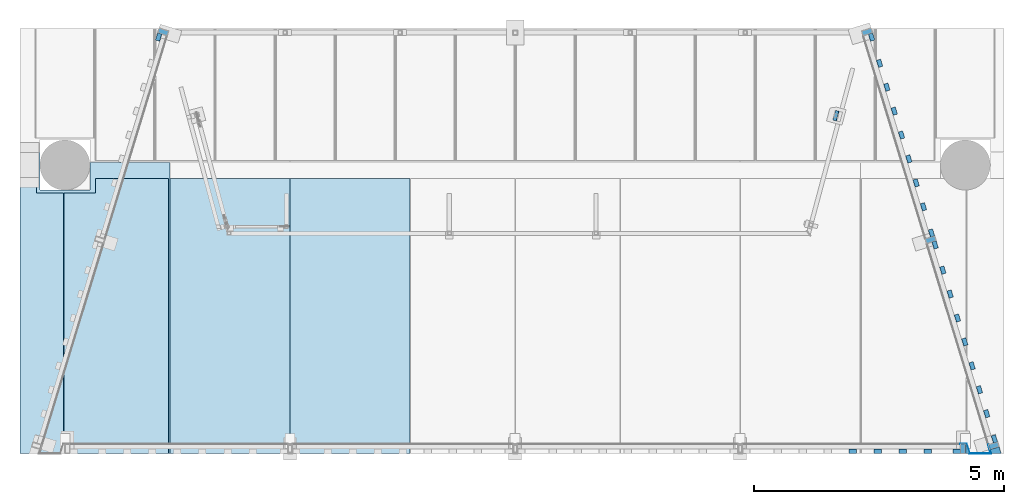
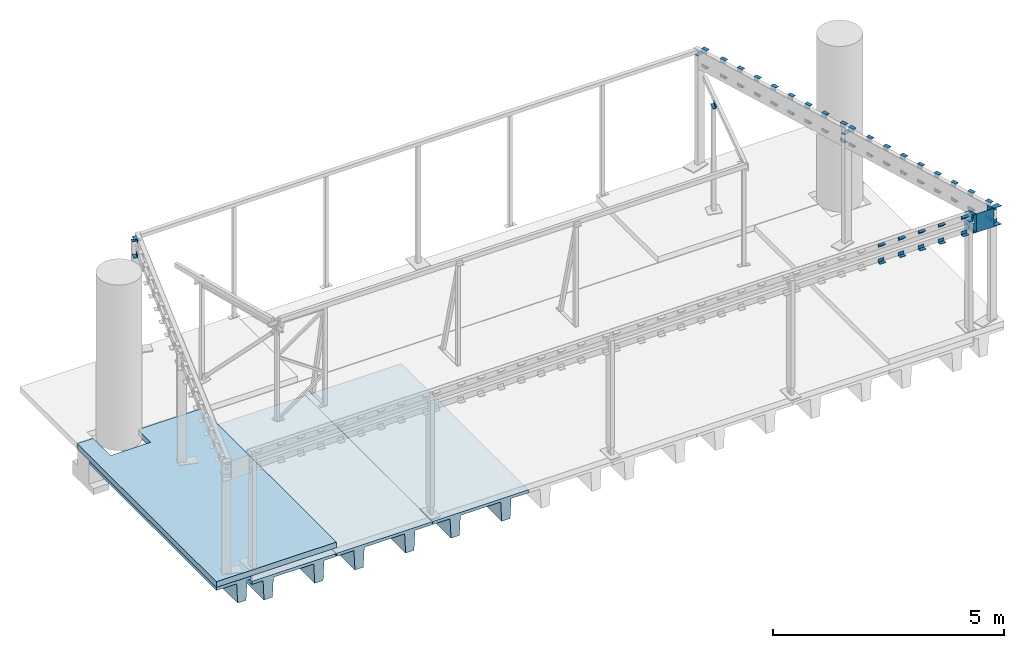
# One storey, part 15 of 19: 59 beams, 5 slabs.
"""IFC2X3 building model written with IfcOpenShell, lengths in millimetres."""

from ifc_helpers import new_model, entity, si_unit, converted_unit, derived_unit, direction, frame, origin_with_axes, place, context, subcontext, project, spatial, faceted_brep, material, type_object, element, save


model = new_model("IFC2X3")

# Units and contexts
model_context = context("Model", 3, precision=0.01, world=frame((0.0, 4.29681676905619e-09, 0.0)), true_north=direction((4.01073788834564e-13, 1.0)))
plan_context = context("Plan", 3, precision=0.01, world=frame((0.0, 4.29681676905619e-09, 0.0)), true_north=direction((4.01073788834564e-13, 1.0)))
body_context = subcontext(model_context, "Body", "Model", "MODEL_VIEW")
ifc_project = project(units=[converted_unit("PLANEANGLEUNIT", "DEGREE", entity("IfcPositiveLengthMeasure", 0.0174532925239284), si_unit("PLANEANGLEUNIT", "RADIAN"), dimensions=[0, 0, 0, 0, 0, 0, 0]), si_unit("AREAUNIT", "SQUARE_METRE"), si_unit("LENGTHUNIT", "METRE", prefix="MILLI"), si_unit("MASSUNIT", "GRAM", prefix="KILO"), si_unit("POWERUNIT", "WATT"), si_unit("PRESSUREUNIT", "PASCAL", prefix="KILO"), si_unit("FORCEUNIT", "NEWTON", prefix="KILO"), si_unit("ELECTRICVOLTAGEUNIT", "VOLT"), si_unit("ELECTRICCURRENTUNIT", "AMPERE"), si_unit("THERMODYNAMICTEMPERATUREUNIT", "DEGREE_CELSIUS"), si_unit("TIMEUNIT", "SECOND"), si_unit("VOLUMEUNIT", "CUBIC_METRE"), derived_unit("LINEARVELOCITYUNIT", [(si_unit("LENGTHUNIT", "METRE"), 1), (si_unit("TIMEUNIT", "SECOND"), -1)]), derived_unit("VOLUMETRICFLOWRATEUNIT", [(si_unit("VOLUMEUNIT", "CUBIC_METRE"), 1), (si_unit("TIMEUNIT", "SECOND"), -1)]), derived_unit("THERMALTRANSMITTANCEUNIT", [(si_unit("POWERUNIT", "WATT"), 1), (si_unit("THERMODYNAMICTEMPERATUREUNIT", "KELVIN"), -1), (si_unit("AREAUNIT", "SQUARE_METRE"), -1)]), derived_unit("SOUNDPRESSUREUNIT", [(si_unit("PRESSUREUNIT", "PASCAL"), 1)])], contexts=[model_context, plan_context])

# Site, building, storey
site_placement = place(None, frame((0.0, -4.29681676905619e-09, 0.0), z_axis=(0.0, 0.0, 1.0), x_axis=(1.0, 0.0, 0.0)))
site = spatial("IfcSite", under=ifc_project, at=site_placement, Name="Gardermoen", CompositionType="ELEMENT")
building_placement = place(site_placement, frame((0.0, 4.29681676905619e-09, 0.0), z_axis=(0.0, 0.0, 1.0), x_axis=(1.0, 0.0, 0.0)))
building = spatial("IfcBuilding", under=site, at=building_placement, Name="TI", CompositionType="ELEMENT")
storey_placement = place(building_placement, origin_with_axes())
storey = spatial("IfcBuildingStorey", under=building, at=storey_placement, Name="F", CompositionType="ELEMENT", Elevation=0.0)

# Beams
ifc_material_1 = material(Name="STEEL/S355")
beam_type_1 = type_object("IfcBeamType", Name="PL8*100", PredefinedType="NOTDEFINED")
beam_1_placement = place(storey_placement, frame((600900.0, 569930.0, 213741.000686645), z_axis=(1.0, 0.0, 0.0), x_axis=(0.0, -1.0, 0.0)))
element("IfcBeam", 1, at=beam_1_placement, inside=storey, type_object=beam_type_1, material=ifc_material_1, Name="STÅLBJELKE", ObjectType="PL8*100", context=body_context, shape_type="Brep", body=[
    faceted_brep([(-5.82076609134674e-11, -3.99999999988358, 0.0), (3.95812094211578e-09, -3.99999999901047, 100.000000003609), (4.30736690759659e-09, 4.00000000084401, 100.000000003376), (-5.82076609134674e-11, 4.00000000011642, -5.82076609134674e-11), (199.999999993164, -4.0, 99.9999999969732), (199.999999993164, 4.0, 99.9999999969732), (200.0, -4.0, -1.97906047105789e-09), (200.0, 4.00000000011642, -1.62981450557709e-09)], [[[0, 1, 2, 3]], [[1, 4, 5, 2]], [[4, 6, 7, 5]], [[6, 0, 3, 7]], [[5, 7, 3, 2]], [[6, 4, 1, 0]]]),
])
for number, where, z_axis, x_axis in (
    (2, (585074.440040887, 578180.41318707, 213741.000686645), (-0.956304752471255, 0.292371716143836, 0.0), (-0.292371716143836, -0.956304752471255, 0.0)),
    (3, (598925.559959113, 578180.41318707, 213741.000686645), (0.956304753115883, 0.292371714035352, -2.20491237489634e-18), (0.292371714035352, -0.956304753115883, -1.00003995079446e-09)),
    (4, (600195.915017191, 574025.269022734, 213741.000686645), (0.956304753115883, 0.292371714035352, -2.20491237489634e-18), (0.292371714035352, -0.956304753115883, -1.00003995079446e-09)),
    (5, (601454.575207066, 569908.377048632, 213741.000686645), (0.956304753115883, 0.292371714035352, -2.20491237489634e-18), (0.292371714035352, -0.956304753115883, -1.00003995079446e-09)),
):
    element("IfcBeam", number, at=place(storey_placement, frame(where, z_axis=z_axis, x_axis=x_axis)), inside=storey, type_object=beam_type_1, material=ifc_material_1, Name="STÅLBJELKE", ObjectType="PL8*100", context=body_context, shape_type="Brep", body=[
        faceted_brep([(-5.82076609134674e-11, -3.99999999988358, 0.0), (3.84170562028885e-09, -4.0, 199.999999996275), (3.84170562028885e-09, 4.0, 199.999999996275), (-5.82076609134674e-11, 4.00000000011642, -5.82076609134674e-11), (100.000000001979, -4.0, 199.999999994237), (100.000000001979, 4.0, 199.999999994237), (100.0, -4.0, 0.0), (100.0, 4.0, 0.0)], [[[0, 1, 2, 3]], [[1, 4, 5, 2]], [[4, 6, 7, 5]], [[6, 0, 3, 7]], [[5, 7, 3, 2]], [[6, 4, 1, 0]]]),
    ])
beam_type_2 = type_object("IfcBeamType", Name="PL10*490", PredefinedType="NOTDEFINED")
beam_2_placement = place(storey_placement, frame((600900.000740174, 569924.999998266, 213650.000687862), z_axis=(-2.93199760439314e-06, -1.78000527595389e-07, 0.999999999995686), x_axis=(0.999999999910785, 1.30319996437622e-05, 2.93199992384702e-06)))
element("IfcBeam", 6, at=beam_2_placement, inside=storey, type_object=beam_type_2, material=ifc_material_1, Name="STÅLBJELKE", ObjectType="PL10*490", context=body_context, shape_type="Brep", body=[
    faceted_brep([(614.955655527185, -179.908039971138, 0.393407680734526), (604.498508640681, -179.908779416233, 0.393321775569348), (602.178997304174, -172.32189712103, 11.7481199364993), (612.636268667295, -172.321157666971, 11.7482058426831), (598.707531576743, -160.967325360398, 19.3351377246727), (609.165060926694, -160.966585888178, 19.3352236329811), (594.612610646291, -147.57369475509, 21.9993204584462), (605.070492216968, -147.572955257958, 21.9994063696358), (590.517649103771, -134.180064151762, 19.3350704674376), (600.975923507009, -134.179324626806, 19.3351563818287), (587.046067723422, -122.825492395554, 11.7479956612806), (597.504715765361, -122.824752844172, 11.7480815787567), (584.726383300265, -115.238610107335, 0.39315940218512), (595.18532890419, -115.237870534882, 0.39324532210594), (583.911746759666, -112.57445134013, -13.0007674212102), (594.370868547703, -112.573711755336, -13.0006814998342), (584.726179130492, -115.238610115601, -26.3946808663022), (595.185328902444, -115.237870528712, -26.3945949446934), (587.045690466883, -122.825492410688, -37.7494790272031), (597.504715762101, -122.824752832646, -37.7493931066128), (590.517156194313, -134.18006417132, -45.3364968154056), (600.975923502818, -134.179324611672, -45.3364108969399), (594.612077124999, -147.573694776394, -48.000679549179), (605.070492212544, -147.572955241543, -48.0005936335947), (598.707038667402, -160.967325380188, -45.3364295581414), (609.16506092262, -160.966585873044, -45.3363436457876), (602.178620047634, -172.321897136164, -37.7493547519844), (612.636268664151, -172.321157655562, -37.7492688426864), (604.498304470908, -179.908779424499, -26.394518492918), (614.955655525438, -179.908039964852, -26.3944325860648), (605.312941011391, -182.572938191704, -13.0005916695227), (615.770115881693, -182.572198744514, -13.0005057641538), (0.0, -5.0, 245.0), (0.0, -5.0, -245.0), (122.289458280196, -5.00000004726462, -245.000000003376), (122.289458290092, -5.00000004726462, 244.999999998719), (0.0, 5.0, 245.0), (0.0, 5.0, -245.0), (129.689270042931, 4.99999994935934, 244.99999999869), (129.689270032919, 4.99999994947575, -245.000000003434), (187.77505069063, -185.007680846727, 244.999999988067), (187.775050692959, -185.007680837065, -245.000000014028), (167.826376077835, -119.752443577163, 11.7491635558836), (164.355257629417, -108.397871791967, 19.3361813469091), (160.260794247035, -95.0042411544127, 22.0003640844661), (156.166330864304, -81.6106105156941, 19.336114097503), (152.695212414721, -70.2560387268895, 11.7490392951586), (150.375885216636, -62.6691564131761, 0.394203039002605), (149.561445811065, -60.004997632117, -12.9997237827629), (150.37588521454, -62.6691564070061, -26.3936372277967), (152.695212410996, -70.256038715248, -37.7484353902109), (156.166330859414, -81.6106105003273, -45.3354531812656), (160.260794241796, -95.0042411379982, -47.9996359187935), (164.355257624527, -108.397871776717, -45.3353859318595), (167.82637607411, -119.752443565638, -37.748311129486), (170.145703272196, -127.339325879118, -26.3934748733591), (170.960142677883, -130.003484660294, -12.9995480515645), (170.145703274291, -127.339325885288, 0.394365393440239), (157.369767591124, -119.753182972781, -37.7483970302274), (159.689094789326, -127.340065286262, -26.3935607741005), (153.898649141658, -108.39861118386, -45.3354718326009), (149.80418575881, -95.0049805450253, -47.999721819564), (145.709722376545, -81.6113499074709, -45.335539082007), (142.238603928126, -70.2567781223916, -37.7485212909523), (139.919276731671, -62.6698958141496, -26.3937231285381), (139.104837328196, -60.0057370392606, -12.9998096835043), (139.919276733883, -62.6698958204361, 0.394117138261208), (142.238603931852, -70.2567781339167, 11.7489533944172), (145.709722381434, -81.6113499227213, 19.3360281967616), (149.804185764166, -95.0049805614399, 22.0002781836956), (153.898649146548, -108.398611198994, 19.3360954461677), (157.369767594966, -119.753182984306, 11.7490776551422), (159.689094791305, -127.340065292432, 0.394279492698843), (160.503534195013, -130.004224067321, -12.999633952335), (180.375191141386, -195.007524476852, -245.00000001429), (180.375191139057, -195.007524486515, 244.999999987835), (619.574558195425, -195.016804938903, -245.000000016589), (619.574558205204, -195.016804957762, 244.999999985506), (593.380826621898, -109.335212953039, 94.9982589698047), (564.144241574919, -13.7002270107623, 94.9983446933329), (564.144241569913, -13.7002270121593, 244.999999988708), (593.380741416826, -109.334934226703, -245.000000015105), (593.380824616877, -109.335206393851, 86.9982589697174), (583.810452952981, -112.261033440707, 94.998287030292), (583.810429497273, -112.261033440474, 86.9982870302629), (554.581139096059, -16.623764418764, 94.9983727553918), (554.581139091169, -16.623764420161, 244.999999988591), (606.060511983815, -185.016519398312, 244.999999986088), (606.060511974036, -185.016519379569, -245.000000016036), (583.817655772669, -112.258526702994, -245.000000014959)], [[[0, 1, 2, 3]], [[3, 2, 4, 5]], [[5, 4, 6, 7]], [[7, 6, 8, 9]], [[9, 8, 10, 11]], [[11, 10, 12, 13]], [[13, 12, 14, 15]], [[15, 14, 16, 17]], [[17, 16, 18, 19]], [[19, 18, 20, 21]], [[21, 20, 22, 23]], [[23, 22, 24, 25]], [[25, 24, 26, 27]], [[27, 26, 28, 29]], [[29, 28, 30, 31]], [[31, 30, 1, 0]], [[32, 33, 34, 35]], [[33, 32, 36, 37]], [[37, 36, 38, 39]], [[39, 38, 40, 41], [42, 43, 44, 45, 46, 47, 48, 49, 50, 51, 52, 53, 54, 55, 56, 57]], [[54, 58, 59, 55]], [[53, 60, 58, 54]], [[52, 61, 60, 53]], [[51, 62, 61, 52]], [[50, 63, 62, 51]], [[49, 64, 63, 50]], [[48, 65, 64, 49]], [[47, 66, 65, 48]], [[46, 67, 66, 47]], [[45, 68, 67, 46]], [[44, 69, 68, 45]], [[43, 70, 69, 44]], [[42, 71, 70, 43]], [[57, 72, 71, 42]], [[56, 73, 72, 57]], [[55, 59, 73, 56]], [[35, 34, 74, 75], [58, 60, 61, 62, 63, 64, 65, 66, 67, 68, 69, 70, 71, 72, 73, 59]], [[75, 74, 76, 77]], [[78, 79, 80, 77, 76, 81, 82], [3, 5, 7, 9, 11, 13, 15, 17, 19, 21, 23, 25, 27, 29, 31, 0]], [[83, 78, 82, 84]], [[78, 83, 85, 79]], [[86, 80, 79, 85]], [[87, 40, 38, 36, 32, 35, 75, 77, 80, 86]], [[41, 40, 87, 88]], [[76, 74, 34, 33, 37, 39, 41, 88, 89, 81]], [[82, 81, 89, 84]], [[88, 87, 86, 85, 83, 84, 89], [26, 24, 22, 20, 18, 16, 14, 12, 10, 8, 6, 4, 2, 1, 30, 28]]]),
])
beam_type_3 = type_object("IfcBeamType", Name="L90*9", PredefinedType="NOTDEFINED")
beam_3_placement = place(storey_placement, frame((601045.004994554, 569920.002198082, 213450.001068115), z_axis=(0.999999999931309, -1.17209999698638e-05, 0.0), x_axis=(-1.17209999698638e-05, -0.999999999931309, 0.0)))
element("IfcBeam", 7, at=beam_3_placement, inside=storey, type_object=beam_type_3, material=ifc_material_1, Name="STÅLBJELKE", ObjectType="L90*9", context=body_context, shape_type="Brep", body=[
    faceted_brep([(0.0, -45.0, -45.0), (0.0, 45.0, -45.0), (190.006239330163, 45.0, -44.999999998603), (190.006239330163, -45.0, -44.999999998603), (-4.65661287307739e-10, -45.0, -35.9999999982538), (190.006239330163, -45.0, -35.9999999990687), (-4.65661287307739e-10, 36.0, -35.9999999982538), (190.006239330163, 36.0, -35.9999999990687), (190.006239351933, 36.0, 35.3766318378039), (0.0, 36.0, -22.7165402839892), (0.0, 45.0, -22.7165402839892), (190.006239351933, 45.0, 35.3766318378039)], [[[0, 1, 2, 3]], [[4, 0, 3, 5]], [[6, 4, 5, 7]], [[6, 7, 8, 9]], [[1, 0, 4, 6, 9, 10]], [[2, 1, 10, 11]], [[7, 5, 3, 2, 11, 8]], [[10, 9, 8, 11]]]),
])
beam_4_placement = place(storey_placement, frame((601045.004994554, 569920.002198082, 213850.001068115), z_axis=(0.0, 0.0, -1.0), x_axis=(-1.17209999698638e-05, -0.999999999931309, 0.0)))
element("IfcBeam", 8, at=beam_4_placement, inside=storey, type_object=beam_type_3, material=ifc_material_1, Name="STÅLBJELKE", ObjectType="L90*9", context=body_context, shape_type="Brep", body=[
    faceted_brep([(0.0, 45.0, -45.0), (0.0, 45.0, 45.0), (190.006239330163, 44.999999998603, 45.0), (190.006239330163, 45.0, -44.999999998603), (8.14907252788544e-10, 36.0, 44.9999999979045), (190.006239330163, 35.9999999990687, 45.0), (-4.65661287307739e-10, 36.0, -35.9999999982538), (190.006239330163, 36.0, -35.9999999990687), (190.006239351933, -35.3766318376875, -36.0), (190.006239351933, -35.3766318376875, -45.0), (1.16415321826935e-10, 22.7165402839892, -45.0), (1.16415321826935e-10, 22.7165402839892, -36.0)], [[[0, 1, 2, 3]], [[1, 4, 5, 2]], [[4, 6, 7, 5]], [[3, 2, 5, 7, 8, 9]], [[0, 3, 9, 10]], [[6, 4, 1, 0, 10, 11]], [[7, 6, 11, 8]], [[10, 9, 8, 11]]]),
])
for number, where, z_axis, x_axis in (
    (9, (600140.188954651, 574737.578647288, 213450.001068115), (0.956310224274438, 0.292353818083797, 0.0), (0.292353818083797, -0.956310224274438, 0.0)),
    (10, (600140.188954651, 574737.578647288, 213850.001068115), (0.0, 0.0, -1.0), (0.292353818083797, -0.956310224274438, 0.0)),
    (11, (599994.008954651, 575215.738647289, 213450.001068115), (0.956310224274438, 0.292353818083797, 0.0), (0.292353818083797, -0.956310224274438, 0.0)),
    (12, (599994.008954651, 575215.738647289, 213850.001068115), (0.0, 0.0, -1.0), (0.292353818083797, -0.956310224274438, 0.0)),
    (13, (599847.828954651, 575693.898647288, 213450.001068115), (0.956310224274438, 0.292353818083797, 0.0), (0.292353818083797, -0.956310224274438, 0.0)),
    (14, (599847.828954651, 575693.898647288, 213850.001068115), (0.0, 0.0, -1.0), (0.292353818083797, -0.956310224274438, 0.0)),
    (15, (599263.108954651, 577606.538647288, 213450.001068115), (0.956310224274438, 0.292353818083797, 0.0), (0.292353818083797, -0.956310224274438, 0.0)),
    (16, (599263.108954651, 577606.538647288, 213850.001068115), (0.0, 0.0, -1.0), (0.292353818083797, -0.956310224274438, 0.0)),
    (17, (599409.288954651, 577128.378647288, 213450.001068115), (0.956310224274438, 0.292353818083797, 0.0), (0.292353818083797, -0.956310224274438, 0.0)),
    (18, (599409.288954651, 577128.378647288, 213850.001068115), (0.0, 0.0, -1.0), (0.292353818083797, -0.956310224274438, 0.0)),
    (19, (599555.468954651, 576650.218647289, 213450.001068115), (0.956310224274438, 0.292353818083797, 0.0), (0.292353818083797, -0.956310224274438, 0.0)),
    (20, (599555.468954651, 576650.218647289, 213850.001068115), (0.0, 0.0, -1.0), (0.292353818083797, -0.956310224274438, 0.0)),
    (21, (601404.829467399, 570601.616969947, 213450.001068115), (0.956321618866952, 0.292316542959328, 0.0), (0.292316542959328, -0.956321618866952, 0.0)),
    (22, (601404.829467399, 570601.616969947, 213850.001068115), (0.0, 0.0, -1.0), (0.292316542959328, -0.956321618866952, 0.0)),
    (23, (601258.669467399, 571079.776969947, 213450.001068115), (0.956321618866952, 0.292316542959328, 0.0), (0.292316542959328, -0.956321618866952, 0.0)),
    (24, (601258.669467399, 571079.776969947, 213850.001068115), (0.0, 0.0, -1.0), (0.292316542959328, -0.956321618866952, 0.0)),
    (25, (601112.509467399, 571557.936969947, 213450.001068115), (0.956321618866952, 0.292316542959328, 0.0), (0.292316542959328, -0.956321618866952, 0.0)),
    (26, (601112.509467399, 571557.936969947, 213850.001068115), (0.0, 0.0, -1.0), (0.292316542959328, -0.956321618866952, 0.0)),
    (27, (600527.869467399, 573470.576969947, 213450.001068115), (0.956321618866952, 0.292316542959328, 0.0), (0.292316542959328, -0.956321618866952, 0.0)),
    (28, (600527.869467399, 573470.576969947, 213850.001068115), (0.0, 0.0, -1.0), (0.292316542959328, -0.956321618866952, 0.0)),
    (29, (600674.029467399, 572992.416969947, 213450.001068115), (0.956321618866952, 0.292316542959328, 0.0), (0.292316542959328, -0.956321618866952, 0.0)),
    (30, (600674.029467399, 572992.416969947, 213850.001068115), (0.0, 0.0, -1.0), (0.292316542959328, -0.956321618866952, 0.0)),
    (31, (600820.189467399, 572514.256969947, 213450.001068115), (0.956321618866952, 0.292316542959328, 0.0), (0.292316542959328, -0.956321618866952, 0.0)),
    (32, (600820.189467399, 572514.256969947, 213850.001068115), (0.0, 0.0, -1.0), (0.292316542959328, -0.956321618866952, 0.0)),
    (33, (600324.999978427, 569774.999964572, 213450.001068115), (-5.80000057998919e-08, -0.999999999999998, 0.0), (-0.999999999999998, 5.80000057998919e-08, 0.0)),
    (34, (600324.999978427, 569774.999964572, 213850.001068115), (0.0, 0.0, -1.0), (-0.999999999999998, 5.80000057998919e-08, 0.0)),
    (35, (599824.999978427, 569774.999964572, 213450.001068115), (-5.80000057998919e-08, -0.999999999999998, 0.0), (-0.999999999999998, 5.80000057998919e-08, 0.0)),
    (36, (599824.999978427, 569774.999964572, 213850.001068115), (0.0, 0.0, -1.0), (-0.999999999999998, 5.80000057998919e-08, 0.0)),
    (37, (599324.999978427, 569774.999964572, 213450.001068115), (-5.80000057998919e-08, -0.999999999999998, 0.0), (-0.999999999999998, 5.80000057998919e-08, 0.0)),
    (38, (599324.999978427, 569774.999964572, 213850.001068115), (0.0, 0.0, -1.0), (-0.999999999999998, 5.80000057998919e-08, 0.0)),
    (39, (584853.129533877, 577986.657220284, 213450.001068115), (-0.956310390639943, 0.292353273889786, -5.79999804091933e-08), (0.292353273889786, 0.956310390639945, -3.30052303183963e-14)),
    (40, (584853.129533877, 577986.657220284, 213850.001068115), (0.0, 0.0, -1.0), (0.292353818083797, 0.956310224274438, 0.0)),
    (41, (599103.01895465, 578130.098647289, 213450.001068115), (0.956310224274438, 0.292353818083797, 0.0), (0.292353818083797, -0.956310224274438, 0.0)),
    (42, (599103.01895465, 578130.098647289, 213850.001068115), (0.0, 0.0, -1.0), (0.292353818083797, -0.956310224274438, 0.0)),
    (43, (599701.648954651, 576172.058647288, 213450.001068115), (0.956310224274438, 0.292353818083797, 0.0), (0.292353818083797, -0.956310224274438, 0.0)),
    (44, (599701.648954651, 576172.058647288, 213850.001068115), (0.0, 0.0, -1.0), (0.292353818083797, -0.956310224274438, 0.0)),
    (45, (600300.498954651, 574214.088647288, 213450.001068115), (0.956310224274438, 0.292353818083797, 0.0), (0.292353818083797, -0.956310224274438, 0.0)),
    (46, (600300.498954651, 574214.088647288, 213850.001068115), (0.0, 0.0, -1.0), (0.292353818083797, -0.956310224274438, 0.0)),
    (47, (600373.368954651, 573974.948647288, 213450.001068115), (0.956310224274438, 0.292353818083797, 0.0), (0.292353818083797, -0.956310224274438, 0.0)),
    (48, (600373.368954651, 573974.948647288, 213850.001068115), (0.0, 0.0, -1.0), (0.292353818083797, -0.956310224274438, 0.0)),
    (49, (600966.349467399, 572036.096969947, 213450.001068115), (0.956321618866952, 0.292316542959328, 0.0), (0.292316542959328, -0.956321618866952, 0.0)),
    (50, (600966.349467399, 572036.096969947, 213850.001068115), (0.0, 0.0, -1.0), (0.292316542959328, -0.956321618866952, 0.0)),
    (51, (598824.999978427, 569774.999964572, 213450.001068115), (-5.80000057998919e-08, -0.999999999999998, 0.0), (-0.999999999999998, 5.80000057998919e-08, 0.0)),
    (52, (598824.999978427, 569774.999964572, 213850.001068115), (0.0, 0.0, -1.0), (-0.999999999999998, 5.80000057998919e-08, 0.0)),
    (53, (600899.999978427, 569774.999964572, 213450.001068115), (-5.80000057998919e-08, -0.999999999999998, 0.0), (-0.999999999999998, 5.80000057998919e-08, 0.0)),
    (54, (600899.999978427, 569774.999964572, 213850.001068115), (0.0, 0.0, -1.0), (-0.999999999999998, 5.80000057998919e-08, 0.0)),
    (55, (601559.088954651, 570097.178647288, 213450.001068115), (0.956310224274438, 0.292353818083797, 0.0), (0.292353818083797, -0.956310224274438, 0.0)),
    (56, (601559.088954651, 570097.178647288, 213850.001068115), (0.0, 0.0, -1.0), (0.292353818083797, -0.956310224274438, 0.0)),
):
    element("IfcBeam", number, at=place(storey_placement, frame(where, z_axis=z_axis, x_axis=x_axis)), inside=storey, type_object=beam_type_3, material=ifc_material_1, Name="STÅLBJELKE", ObjectType="L90*9", context=body_context, shape_type="Brep", body=[
        faceted_brep([(0.0, 45.0, -45.0), (0.0, 45.0, 45.0), (149.994660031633, 45.0, 44.9999999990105), (149.994660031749, 45.0, -44.9999999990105), (8.14907252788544e-10, 36.0, 44.9999999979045), (149.994660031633, 36.0, 44.9999999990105), (-4.65661287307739e-10, 36.0, -35.9999999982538), (149.994660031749, 36.0, -35.9999999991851), (-4.65661287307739e-10, -45.0, -35.9999999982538), (149.994660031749, -45.0, -35.9999999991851), (0.0, -45.0, -45.0), (149.994660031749, -45.0, -44.9999999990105)], [[[0, 1, 2, 3]], [[1, 4, 5, 2]], [[4, 6, 7, 5]], [[6, 8, 9, 7]], [[8, 10, 11, 9]], [[10, 0, 3, 11]], [[5, 7, 9, 11, 3, 2]], [[10, 8, 6, 4, 1, 0]]]),
    ])
ifc_material_2 = material(Name="STEEL/S355J0")
beam_type_4 = type_object("IfcBeamType", Name="L75*8", PredefinedType="NOTDEFINED")
beam_5_placement = place(storey_placement, frame((598390.453832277, 576390.23011989, 213615.499732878), z_axis=(-0.965926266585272, 0.258817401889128, 0.0), x_axis=(0.258817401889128, 0.965926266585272, 0.0)))
element("IfcBeam", 57, at=beam_5_placement, inside=storey, type_object=beam_type_4, material=ifc_material_2, Name="STÅLBJELKE", ObjectType="L75*8", context=body_context, shape_type="Brep", body=[
    faceted_brep([(1.10594555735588e-09, 37.5, -37.4999999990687), (-1.33877620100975e-09, 37.5, 37.4999999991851), (200.006350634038, 37.5, 37.5000000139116), (200.006350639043, 37.5, -37.4999999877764), (-1.33877620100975e-09, 29.5, 37.4999999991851), (200.006350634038, 29.5, 37.5000000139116), (8.73114913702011e-10, 29.5, -29.4999999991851), (200.006350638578, 29.5, -29.4999999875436), (8.73114913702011e-10, -37.5, -29.4999999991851), (200.006350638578, -37.5, -29.4999999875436), (1.10594555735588e-09, -37.5, -37.4999999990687), (200.006350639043, -37.5, -37.4999999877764)], [[[0, 1, 2, 3]], [[1, 4, 5, 2]], [[4, 6, 7, 5]], [[6, 8, 9, 7]], [[8, 10, 11, 9]], [[10, 0, 3, 11]], [[5, 7, 9, 11, 3, 2]], [[10, 8, 6, 4, 1, 0]]]),
])
beam_type_5 = type_object("IfcBeamType", Name="L150*90*9", PredefinedType="NOTDEFINED")
beam_6_placement = place(storey_placement, frame((601697.003905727, 569799.499900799, 213450.001068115), z_axis=(0.292370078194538, -0.956305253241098, -6.40173678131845e-09), x_axis=(-0.956305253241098, -0.292370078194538, 1.00122997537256e-09)))
element("IfcBeam", 58, at=beam_6_placement, inside=storey, type_object=beam_type_5, material=ifc_material_1, Name="STÅLBJELKE", ObjectType="L150*90*9", context=body_context, shape_type="Brep", body=[
    faceted_brep([(2.44472175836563e-09, -45.0, -74.9999999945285), (2.44472175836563e-09, 45.0, -74.9999999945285), (190.008485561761, 45.0, -74.9999999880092), (190.008485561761, -45.0, -74.9999999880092), (2.15368345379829e-09, -45.0, -65.999999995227), (190.008485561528, -45.0, -65.9999999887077), (2.15368345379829e-09, 36.0, -65.999999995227), (190.008485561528, 36.0, -65.9999999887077), (190.00848555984, 36.0, 14.5819889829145), (2.44472175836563e-09, 36.0, 72.6730580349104), (2.44472175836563e-09, 45.0, 72.6730580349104), (190.00848555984, 45.0, 14.5819889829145)], [[[0, 1, 2, 3]], [[4, 0, 3, 5]], [[6, 4, 5, 7]], [[6, 7, 8, 9]], [[1, 0, 4, 6, 9, 10]], [[2, 1, 10, 11]], [[7, 5, 3, 2, 11, 8]], [[10, 9, 8, 11]]]),
])
beam_type_6 = type_object("IfcBeamType", Name="L90*150*9", PredefinedType="NOTDEFINED")
beam_7_placement = place(storey_placement, frame((601697.003905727, 569799.499900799, 213850.001068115), z_axis=(-9.57481485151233e-10, -2.9272968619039e-10, -1.0), x_axis=(-0.956305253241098, -0.292370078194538, 1.00122997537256e-09)))
element("IfcBeam", 59, at=beam_7_placement, inside=storey, type_object=beam_type_6, material=ifc_material_1, Name="STÅLBJELKE", ObjectType="L90*150*9", context=body_context, shape_type="Brep", body=[
    faceted_brep([(2.5029294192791e-09, 74.9999999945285, -45.0), (2.5029294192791e-09, 74.9999999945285, 45.0), (190.008485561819, 74.9999999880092, 45.0), (190.008485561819, 74.9999999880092, -45.0), (2.15368345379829e-09, 65.999999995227, 45.0), (190.008485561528, 65.9999999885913, 45.0), (2.15368345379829e-09, 65.999999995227, -36.0), (190.008485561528, 65.9999999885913, -36.0), (190.00848555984, -14.5819889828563, -36.0), (190.00848555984, -14.5819889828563, -45.0), (2.56113708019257e-09, -72.6730580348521, -45.0), (2.56113708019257e-09, -72.6730580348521, -36.0)], [[[0, 1, 2, 3]], [[1, 4, 5, 2]], [[4, 6, 7, 5]], [[3, 2, 5, 7, 8, 9]], [[0, 3, 9, 10]], [[6, 4, 1, 0, 10, 11]], [[7, 6, 11, 8]], [[10, 9, 8, 11]]]),
])

# Slabs
slab_type_1 = type_object("IfcSlabType", Name="TT600*2394-210-80-1266-0.05-0-0", PredefinedType="NOTDEFINED")
slab_1_placement = place(storey_placement, frame((582104.99, 575230.0, 210380.0), z_axis=(0.0, 0.0, 1.0), x_axis=(0.0, -1.0, 0.0)))
element("IfcSlab", 60, at=slab_1_placement, inside=storey, type_object=slab_type_1, Name="DT", ObjectType="TT600*2394-210-80-1266-0.05-0-0", PredefinedType="FLOOR", context=body_context, shape_type="Brep", body=[
    faceted_brep([(0.0, 328.365978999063, 300.0), (0.0, 328.365978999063, 220.0), (284.968593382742, 328.365978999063, 220.0), (284.968489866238, 328.365978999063, 300.0), (284.968593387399, 502.0, 220.0), (284.969266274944, 528.0, -300.0), (284.969266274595, 738.0, -300.0), (284.96859338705, 764.0, 220.0), (284.968593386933, 863.999332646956, 220.0), (284.968489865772, 863.999332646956, 300.0), (0.0, -3.27026551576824, 300.0), (0.0, -3.27026551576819, 220.0), (5500.00186890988, -3.27026551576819, 220.0), (5500.00186890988, 502.0, 220.0), (5500.0022702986, 528.0, -300.0), (5500.00186890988, 738.0, -300.0), (5500.00186890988, 764.0, 220.0), (5500.00186890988, 863.999332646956, 220.0), (5500.00186890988, 863.999332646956, 300.0), (5500.00186890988, -3.27026551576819, 300.0), (5500.00186890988, 528.0, -300.0)], [[[0, 1, 2, 3]], [[3, 2, 4, 5, 6, 7, 8, 9]], [[10, 11, 1, 0]], [[11, 12, 13, 4, 2, 1]], [[13, 14, 5, 4]], [[14, 15, 6, 5]], [[15, 16, 7, 6]], [[16, 17, 8, 7]], [[17, 18, 9, 8]], [[18, 19, 10, 0, 3, 9]], [[12, 11, 10, 19]], [[19, 18, 17, 16, 15, 20, 13, 12]]], orient=[[False], [False], [False], [False], [False], [False], [False], [False], [False], [False], [False], [False]]),
])
slab_2_placement = place(storey_placement, frame((584029.99, 575230.0, 210230.0), z_axis=(0.0, 0.0, 1.0), x_axis=(0.0, -1.0, 0.0)))
element("IfcSlab", 61, at=slab_2_placement, inside=storey, type_object=slab_type_1, Name="DT", ObjectType="TT600*2394-210-80-1266-0.05-0-0", PredefinedType="FLOOR", context=body_context, shape_type="Brep", body=[
    faceted_brep([(284.968593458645, -421.997276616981, 300.0), (284.968593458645, -421.997180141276, 220.0), (0.0, -421.997180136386, 220.0), (0.0, -421.997276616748, 300.0), (284.968593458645, -1045.00182702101, 220.0), (284.968593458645, -764.0, 220.0), (284.968593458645, -738.0, -300.0), (284.968593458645, -528.0, -300.0), (284.968593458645, -502.0, 220.0), (284.968593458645, -1045.00182702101, 300.0), (5500.00186890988, 502.0, 220.0), (5500.00186890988, 528.0, -300.0), (0.0, 528.0, -300.0), (0.0, 502.0, 220.0), (5500.00186890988, 738.0, -300.0), (0.0, 738.0, -300.0), (5500.00186890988, 764.0, 220.0), (0.0, 764.0, 220.0), (5500.00186890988, 1045.00214026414, 220.0), (0.0, 1045.00214026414, 220.0), (5500.00186890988, 1045.00214026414, 300.0), (0.0, 1045.00214026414, 300.0), (5500.00186890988, -1045.00182702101, 300.0), (5500.00186890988, -1045.00182702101, 220.0), (5500.00186890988, -764.0, 220.0), (5500.00186890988, -738.0, -300.0), (5500.00186890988, -528.0, -300.0), (5500.00186890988, -502.0, 220.0)], [[[0, 1, 2, 3]], [[4, 5, 6, 7, 8, 1, 0, 9]], [[10, 11, 12, 13]], [[11, 14, 15, 12]], [[14, 16, 17, 15]], [[16, 18, 19, 17]], [[18, 20, 21, 19]], [[22, 23, 4, 9]], [[23, 24, 5, 4]], [[24, 25, 6, 5]], [[25, 26, 7, 6]], [[26, 27, 8, 7]], [[27, 10, 13, 2, 1, 8]], [[3, 2, 13, 12, 15, 17, 19, 21]], [[20, 22, 9, 0, 3, 21]], [[27, 26, 25, 24, 23, 22, 20, 18, 16, 14, 11, 10]]], orient=[[False], [False], [False], [False], [False], [False], [False], [False], [False], [False], [False], [False], [False], [False], [False], [False]]),
])
for number, where, z_axis, x_axis, name in (
    (62, (586300.0, 575230.0, 210230.0), (0.0, 0.0, 1.0), (0.0, -1.0, 0.0), "DT"),
    (63, (588700.0, 575230.0, 210230.0), (0.0, 0.0, 1.0), (0.0, -1.0, 0.0), "DT"),
):
    element("IfcSlab", number, at=place(storey_placement, frame(where, z_axis=z_axis, x_axis=x_axis)), inside=storey, type_object=slab_type_1, Name=name, ObjectType="TT600*2394-210-80-1266-0.05-0-0", PredefinedType="FLOOR", context=body_context, shape_type="Brep", body=[
        faceted_brep([(5500.00186890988, -1197.0, 300.0), (5500.00186890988, -1197.0, 220.0), (0.0, -1197.0, 220.0), (0.0, -1197.0, 300.0), (5500.00186890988, -764.0, 220.0), (0.0, -764.0, 220.0), (5500.00186890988, -738.0, -300.0), (0.0, -738.0, -300.0), (5500.00186890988, -528.0, -300.0), (0.0, -528.0, -300.0), (5500.00186890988, -502.0, 220.0), (0.0, -502.0, 220.0), (5500.00186890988, 502.0, 220.0), (0.0, 502.0, 220.0), (5500.00186890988, 528.0, -300.0), (0.0, 528.0, -300.0), (5500.00186890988, 738.0, -300.0), (0.0, 738.0, -300.0), (5500.00186890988, 764.0, 220.0), (0.0, 764.0, 220.0), (5500.00186890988, 1197.0, 220.0), (0.0, 1197.0, 220.0), (5500.00186890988, 1197.0, 300.0), (0.0, 1197.0, 300.0)], [[[0, 1, 2, 3]], [[1, 4, 5, 2]], [[4, 6, 7, 5]], [[6, 8, 9, 7]], [[8, 10, 11, 9]], [[10, 12, 13, 11]], [[12, 14, 15, 13]], [[14, 16, 17, 15]], [[16, 18, 19, 17]], [[18, 20, 21, 19]], [[20, 22, 23, 21]], [[22, 0, 3, 23]], [[3, 2, 5, 7, 9, 11, 13, 15, 17, 19, 21, 23]], [[22, 20, 18, 16, 14, 12, 10, 8, 6, 4, 1, 0]]], orient=[[False], [False], [False], [False], [False], [False], [False], [False], [False], [False], [False], [False], [False], [False]]),
    ])
slab_type_2 = type_object("IfcSlabType", Name="150*15250", PredefinedType="NOTDEFINED")
slab_3_placement = place(storey_placement, frame((563967.043444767, 575750.0, 210755.0), z_axis=(-5.80000057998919e-08, -0.999999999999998, 0.0), x_axis=(-0.999999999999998, 5.80000057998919e-08, 0.0)))
element("IfcSlab", 64, at=slab_3_placement, inside=storey, type_object=slab_type_2, Name="PÅSTØP", ObjectType="150*15250", PredefinedType="FLOOR", context=body_context, shape_type="Brep", body=[
    faceted_brep([(-18134.6762897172, -75.0, 0.00214562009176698), (-18134.6762897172, 75.0, 0.00214561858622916), (-18532.9765625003, 75.0, 0.00219274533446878), (-18532.9765625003, -75.0, 0.00219274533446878), (-21134.0556248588, 75.0, 6020.00064313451), (-21134.0556248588, -75.0, 6020.00064313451), (-21132.9121093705, -75.0, 200.003159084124), (-21132.9121093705, 75.0, 200.003159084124), (-19532.9765624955, 75.0, 200.002243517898), (-19532.9765624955, -75.0, 200.002243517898), (-19532.9765624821, 75.0, 750.002808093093), (-19532.9765624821, -75.0, 750.002808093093), (-18532.9765624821, 75.0, 750.002808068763), (-18532.9765624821, -75.0, 750.002808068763), (-18134.6762897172, 75.0000000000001, 6020.00081709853), (-18134.6762897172, -75.0000000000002, 6020.00081709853)], [[[0, 1, 2, 3]], [[4, 5, 6, 7]], [[8, 7, 6, 9]], [[10, 8, 9, 11]], [[12, 10, 11, 13]], [[2, 12, 13, 3]], [[1, 14, 4, 7, 8, 10, 12, 2]], [[5, 15, 0, 3, 13, 11, 9, 6]], [[14, 1, 0, 15]], [[15, 5, 4, 14]]], orient=[[False], [False], [False], [False], [False], [False], [False], [False], [False], [False]]),
])

save(model, "model.ifc")
